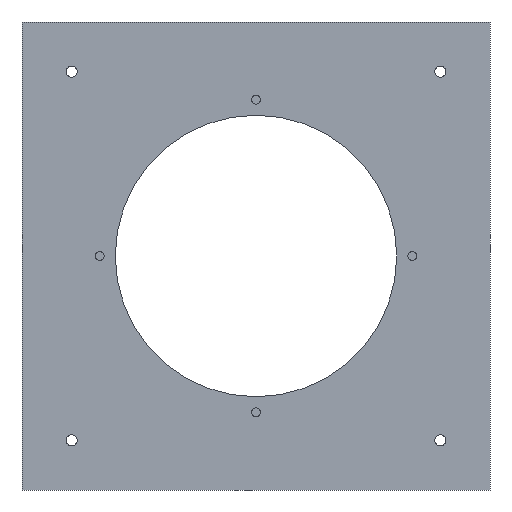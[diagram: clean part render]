
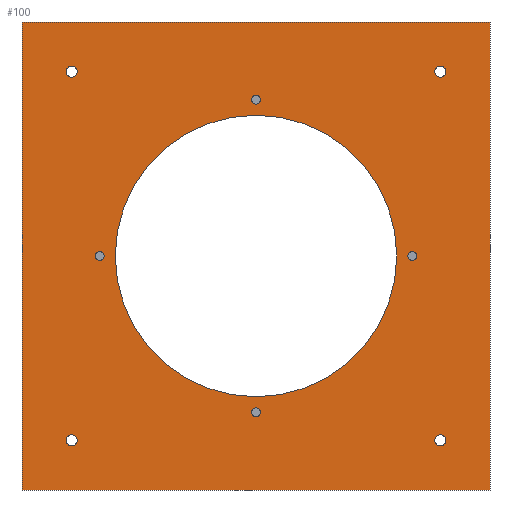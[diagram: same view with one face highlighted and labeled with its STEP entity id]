
A CAD part, front view. The second image highlights one B-rep face of the part: STEP entity #100.
In plain terms, the highlighted planar face has unit normal (0, -1, 0).
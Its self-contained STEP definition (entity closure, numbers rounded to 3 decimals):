
#100=ADVANCED_FACE('',(#197,#198,#199,#200,#201,#202,#203,#204,#205,#206),#207,.F.);
#197=FACE_BOUND('',#302,.T.);
#198=FACE_BOUND('',#303,.T.);
#199=FACE_BOUND('',#304,.T.);
#200=FACE_BOUND('',#305,.T.);
#201=FACE_BOUND('',#306,.T.);
#202=FACE_BOUND('',#307,.T.);
#203=FACE_BOUND('',#308,.T.);
#204=FACE_BOUND('',#309,.T.);
#205=FACE_BOUND('',#310,.T.);
#206=FACE_OUTER_BOUND('',#311,.T.);
#207=PLANE('',#312);
#302=EDGE_LOOP('',(#513,#514));
#303=EDGE_LOOP('',(#515,#516));
#304=EDGE_LOOP('',(#517,#518));
#305=EDGE_LOOP('',(#519,#520));
#306=EDGE_LOOP('',(#521,#522));
#307=EDGE_LOOP('',(#523,#524));
#308=EDGE_LOOP('',(#525,#526));
#309=EDGE_LOOP('',(#527,#528));
#310=EDGE_LOOP('',(#529,#530));
#311=EDGE_LOOP('',(#531,#532,#533,#534));
#312=AXIS2_PLACEMENT_3D('',#535,#536,#537);
#513=ORIENTED_EDGE('',*,*,#614,.T.);
#514=ORIENTED_EDGE('',*,*,#619,.T.);
#515=ORIENTED_EDGE('',*,*,#609,.T.);
#516=ORIENTED_EDGE('',*,*,#623,.T.);
#517=ORIENTED_EDGE('',*,*,#604,.T.);
#518=ORIENTED_EDGE('',*,*,#627,.T.);
#519=ORIENTED_EDGE('',*,*,#599,.T.);
#520=ORIENTED_EDGE('',*,*,#631,.T.);
#521=ORIENTED_EDGE('',*,*,#634,.T.);
#522=ORIENTED_EDGE('',*,*,#596,.T.);
#523=ORIENTED_EDGE('',*,*,#637,.T.);
#524=ORIENTED_EDGE('',*,*,#591,.T.);
#525=ORIENTED_EDGE('',*,*,#640,.T.);
#526=ORIENTED_EDGE('',*,*,#586,.T.);
#527=ORIENTED_EDGE('',*,*,#643,.T.);
#528=ORIENTED_EDGE('',*,*,#581,.T.);
#529=ORIENTED_EDGE('',*,*,#574,.T.);
#530=ORIENTED_EDGE('',*,*,#647,.T.);
#531=ORIENTED_EDGE('',*,*,#659,.T.);
#532=ORIENTED_EDGE('',*,*,#655,.F.);
#533=ORIENTED_EDGE('',*,*,#660,.F.);
#534=ORIENTED_EDGE('',*,*,#652,.F.);
#535=CARTESIAN_POINT('',(0.0,-4.0,0.0));
#536=DIRECTION('',(0.0,1.0,0.0));
#537=DIRECTION('',(0.0,0.0,1.0));
#574=EDGE_CURVE('',#670,#667,#671,.T.);
#581=EDGE_CURVE('',#677,#681,#683,.T.);
#586=EDGE_CURVE('',#686,#690,#692,.T.);
#591=EDGE_CURVE('',#695,#699,#701,.T.);
#596=EDGE_CURVE('',#704,#708,#710,.T.);
#599=EDGE_CURVE('',#715,#712,#716,.T.);
#604=EDGE_CURVE('',#724,#721,#725,.T.);
#609=EDGE_CURVE('',#733,#730,#734,.T.);
#614=EDGE_CURVE('',#742,#739,#743,.T.);
#619=EDGE_CURVE('',#739,#742,#749,.T.);
#623=EDGE_CURVE('',#730,#733,#753,.T.);
#627=EDGE_CURVE('',#721,#724,#757,.T.);
#631=EDGE_CURVE('',#712,#715,#761,.T.);
#634=EDGE_CURVE('',#708,#704,#764,.T.);
#637=EDGE_CURVE('',#699,#695,#767,.T.);
#640=EDGE_CURVE('',#690,#686,#770,.T.);
#643=EDGE_CURVE('',#681,#677,#773,.T.);
#647=EDGE_CURVE('',#667,#670,#777,.T.);
#652=EDGE_CURVE('',#784,#779,#786,.T.);
#655=EDGE_CURVE('',#789,#791,#792,.T.);
#659=EDGE_CURVE('',#784,#791,#797,.T.);
#660=EDGE_CURVE('',#779,#789,#798,.T.);
#667=VERTEX_POINT('',#805);
#670=VERTEX_POINT('',#809);
#671=CIRCLE('',#810,126.0);
#677=VERTEX_POINT('',#817);
#681=VERTEX_POINT('',#822);
#683=CIRCLE('',#825,5.0);
#686=VERTEX_POINT('',#828);
#690=VERTEX_POINT('',#833);
#692=CIRCLE('',#836,5.0);
#695=VERTEX_POINT('',#839);
#699=VERTEX_POINT('',#844);
#701=CIRCLE('',#847,5.0);
#704=VERTEX_POINT('',#850);
#708=VERTEX_POINT('',#855);
#710=CIRCLE('',#858,5.0);
#712=VERTEX_POINT('',#860);
#715=VERTEX_POINT('',#864);
#716=CIRCLE('',#865,4.0);
#721=VERTEX_POINT('',#871);
#724=VERTEX_POINT('',#875);
#725=CIRCLE('',#876,4.0);
#730=VERTEX_POINT('',#882);
#733=VERTEX_POINT('',#886);
#734=CIRCLE('',#887,4.0);
#739=VERTEX_POINT('',#893);
#742=VERTEX_POINT('',#897);
#743=CIRCLE('',#898,4.0);
#749=CIRCLE('',#905,4.0);
#753=CIRCLE('',#909,4.0);
#757=CIRCLE('',#913,4.0);
#761=CIRCLE('',#917,4.0);
#764=CIRCLE('',#920,5.0);
#767=CIRCLE('',#923,5.0);
#770=CIRCLE('',#926,5.0);
#773=CIRCLE('',#929,5.0);
#777=CIRCLE('',#933,126.0);
#779=VERTEX_POINT('',#935);
#784=VERTEX_POINT('',#942);
#786=LINE('',#945,#946);
#789=VERTEX_POINT('',#949);
#791=VERTEX_POINT('',#952);
#792=LINE('',#953,#954);
#797=LINE('',#961,#962);
#798=LINE('',#963,#964);
#805=CARTESIAN_POINT('',(126.0,-4.0,0.));
#809=CARTESIAN_POINT('',(-126.0,-4.0,0.));
#810=AXIS2_PLACEMENT_3D('',#973,#974,#975);
#817=CARTESIAN_POINT('',(-160.0,-4.0,-165.0));
#822=CARTESIAN_POINT('',(-170.0,-4.0,-165.0));
#825=AXIS2_PLACEMENT_3D('',#985,#986,#987);
#828=CARTESIAN_POINT('',(-165.0,-4.0,160.0));
#833=CARTESIAN_POINT('',(-165.0,-4.0,170.0));
#836=AXIS2_PLACEMENT_3D('',#993,#994,#995);
#839=CARTESIAN_POINT('',(160.0,-4.0,165.0));
#844=CARTESIAN_POINT('',(170.0,-4.0,165.0));
#847=AXIS2_PLACEMENT_3D('',#1001,#1002,#1003);
#850=CARTESIAN_POINT('',(165.0,-4.0,-160.0));
#855=CARTESIAN_POINT('',(165.0,-4.0,-170.0));
#858=AXIS2_PLACEMENT_3D('',#1009,#1010,#1011);
#860=CARTESIAN_POINT('',(144.0,-4.0,0.));
#864=CARTESIAN_POINT('',(136.0,-4.0,0.));
#865=AXIS2_PLACEMENT_3D('',#1013,#1014,#1015);
#871=CARTESIAN_POINT('',(0.,-4.0,-144.0));
#875=CARTESIAN_POINT('',(0.,-4.0,-136.0));
#876=AXIS2_PLACEMENT_3D('',#1021,#1022,#1023);
#882=CARTESIAN_POINT('',(-144.0,-4.0,0.));
#886=CARTESIAN_POINT('',(-136.0,-4.0,0.));
#887=AXIS2_PLACEMENT_3D('',#1029,#1030,#1031);
#893=CARTESIAN_POINT('',(0.,-4.0,144.0));
#897=CARTESIAN_POINT('',(0.,-4.0,136.0));
#898=AXIS2_PLACEMENT_3D('',#1037,#1038,#1039);
#905=AXIS2_PLACEMENT_3D('',#1047,#1048,#1049);
#909=AXIS2_PLACEMENT_3D('',#1053,#1054,#1055);
#913=AXIS2_PLACEMENT_3D('',#1059,#1060,#1061);
#917=AXIS2_PLACEMENT_3D('',#1065,#1066,#1067);
#920=AXIS2_PLACEMENT_3D('',#1068,#1069,#1070);
#923=AXIS2_PLACEMENT_3D('',#1074,#1075,#1076);
#926=AXIS2_PLACEMENT_3D('',#1080,#1081,#1082);
#929=AXIS2_PLACEMENT_3D('',#1086,#1087,#1088);
#933=AXIS2_PLACEMENT_3D('',#1095,#1096,#1097);
#935=CARTESIAN_POINT('',(209.5,-4.0,209.5));
#942=CARTESIAN_POINT('',(-209.5,-4.0,209.5));
#945=CARTESIAN_POINT('',(0.0,-4.0,209.5));
#946=VECTOR('',#1101,1.0);
#949=CARTESIAN_POINT('',(209.5,-4.0,-209.5));
#952=CARTESIAN_POINT('',(-209.5,-4.0,-209.5));
#953=CARTESIAN_POINT('',(0.0,-4.0,-209.5));
#954=VECTOR('',#1103,1.0);
#961=CARTESIAN_POINT('',(-209.5,-4.0,0.0));
#962=VECTOR('',#1106,1.0);
#963=CARTESIAN_POINT('',(209.5,-4.0,0.0));
#964=VECTOR('',#1107,1.0);
#973=CARTESIAN_POINT('',(0.0,-4.0,0.0));
#974=DIRECTION('',(-0.0,1.0,0.0));
#975=DIRECTION('',(1.0,0.0,0.0));
#985=CARTESIAN_POINT('',(-165.0,-4.0,-165.0));
#986=DIRECTION('',(-0.0,1.0,0.0));
#987=DIRECTION('',(1.0,0.0,0.0));
#993=CARTESIAN_POINT('',(-165.0,-4.0,165.0));
#994=DIRECTION('',(0.0,1.0,0.0));
#995=DIRECTION('',(0.,0.0,-1.0));
#1001=CARTESIAN_POINT('',(165.0,-4.0,165.0));
#1002=DIRECTION('',(0.0,1.0,0.0));
#1003=DIRECTION('',(-1.0,0.0,0.));
#1009=CARTESIAN_POINT('',(165.0,-4.0,-165.0));
#1010=DIRECTION('',(0.0,1.0,0.0));
#1011=DIRECTION('',(0.,0.0,1.0));
#1013=CARTESIAN_POINT('',(140.0,-4.0,0.0));
#1014=DIRECTION('',(-0.0,1.0,0.0));
#1015=DIRECTION('',(1.0,0.0,0.0));
#1021=CARTESIAN_POINT('',(0.,-4.0,-140.0));
#1022=DIRECTION('',(0.0,1.0,0.0));
#1023=DIRECTION('',(0.,0.0,-1.0));
#1029=CARTESIAN_POINT('',(-140.0,-4.0,0.));
#1030=DIRECTION('',(0.0,1.0,0.0));
#1031=DIRECTION('',(-1.0,0.0,0.));
#1037=CARTESIAN_POINT('',(0.,-4.0,140.0));
#1038=DIRECTION('',(0.0,1.0,0.0));
#1039=DIRECTION('',(0.,0.0,1.0));
#1047=CARTESIAN_POINT('',(0.,-4.0,140.0));
#1048=DIRECTION('',(0.0,1.0,0.0));
#1049=DIRECTION('',(0.,0.0,1.0));
#1053=CARTESIAN_POINT('',(-140.0,-4.0,0.));
#1054=DIRECTION('',(0.0,1.0,0.0));
#1055=DIRECTION('',(-1.0,0.0,0.));
#1059=CARTESIAN_POINT('',(0.,-4.0,-140.0));
#1060=DIRECTION('',(0.0,1.0,0.0));
#1061=DIRECTION('',(0.,0.0,-1.0));
#1065=CARTESIAN_POINT('',(140.0,-4.0,0.0));
#1066=DIRECTION('',(-0.0,1.0,0.0));
#1067=DIRECTION('',(1.0,0.0,0.0));
#1068=CARTESIAN_POINT('',(165.0,-4.0,-165.0));
#1069=DIRECTION('',(0.0,1.0,0.0));
#1070=DIRECTION('',(0.,0.0,1.0));
#1074=CARTESIAN_POINT('',(165.0,-4.0,165.0));
#1075=DIRECTION('',(0.0,1.0,0.0));
#1076=DIRECTION('',(-1.0,0.0,0.));
#1080=CARTESIAN_POINT('',(-165.0,-4.0,165.0));
#1081=DIRECTION('',(0.0,1.0,0.0));
#1082=DIRECTION('',(0.,0.0,-1.0));
#1086=CARTESIAN_POINT('',(-165.0,-4.0,-165.0));
#1087=DIRECTION('',(-0.0,1.0,0.0));
#1088=DIRECTION('',(1.0,0.0,0.0));
#1095=CARTESIAN_POINT('',(0.0,-4.0,0.0));
#1096=DIRECTION('',(-0.0,1.0,0.0));
#1097=DIRECTION('',(1.0,0.0,0.0));
#1101=DIRECTION('',(1.0,0.0,0.0));
#1103=DIRECTION('',(-1.0,0.0,0.0));
#1106=DIRECTION('',(0.0,0.0,-1.0));
#1107=DIRECTION('',(0.0,0.0,-1.0));
